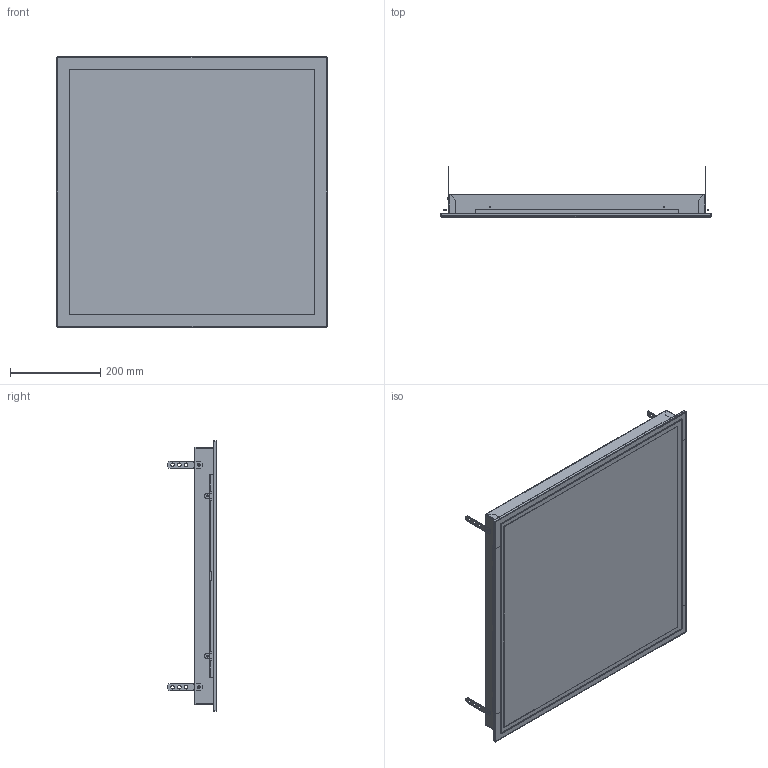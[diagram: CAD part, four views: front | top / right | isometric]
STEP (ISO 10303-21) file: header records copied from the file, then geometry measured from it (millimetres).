
FILE_DESCRIPTION(('STEP AP203'), '1');
FILE_NAME('砚弪桦桕 3', '', ('UNSPECIFIED'), ('UNSPECIFIED'), 'ASCON STEP Converter 1.6', 'ASCON Math Kernel', '');
FILE_SCHEMA(('CONFIG_CONTROL_DESIGN'));
Length unit declared in the file: millimetre
Products named in the file (12): ДКП008 01 002.04; ДКП008 01 002.05; ДКП008 01 002.06; ДКП008 01 003.01; ДКП008 01 003.03
Assembly tree (22 placements, depth 3):
  (unnamed)
    ДКП008 01 002.04
    ДКП008 01 002.05
    ДКП008 01 002.06
    (unnamed)
      ДКП008 01 003.01
      (unnamed)  x4
      ДКП008 01 003.03  x4
    (unnamed)  x2
    (unnamed)  x2
    (unnamed)
    (unnamed)  x4
Bounding box: 599 x 110 x 599 mm (x, y, z)
Volume: 1309143.6 mm3; surface area: 1816023.1 mm2
Topology: 21 solids, 21 shells, 585 faces, 1373 edges, 852 vertices
Faces by surface type: plane 370, cylinder 151, bspline 40, torus 16, cone 8
Full cylindrical faces by diameter (mm): 1.85 x4, 2.2 x4, 2.5 x8, 3.2 x4, 3.5 x48, 4.4 x4, 4.5 x2, 8 x12, 20 x1
Entity records: 14170 total; most frequent: CARTESIAN_POINT 3664, DIRECTION 1944, ORIENTED_EDGE 1824, EDGE_CURVE 912, AXIS2_PLACEMENT_3D 662, LINE 620, VECTOR 620, EDGE_LOOP 610
